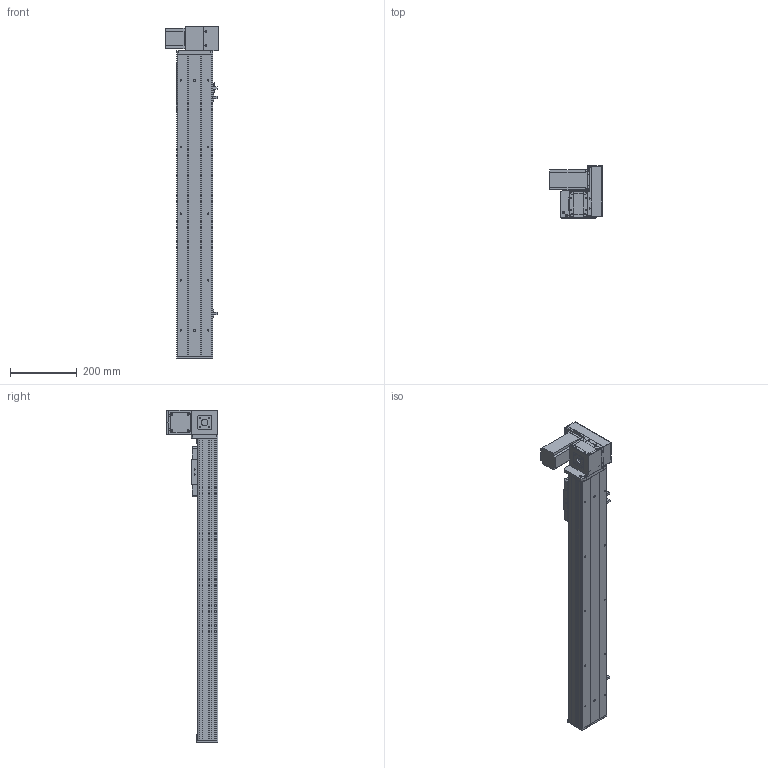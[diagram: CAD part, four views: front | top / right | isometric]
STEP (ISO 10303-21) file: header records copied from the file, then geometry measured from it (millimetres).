
FILE_DESCRIPTION (( 'STEP AP203' ), '1' );
FILE_NAME ('Y10CB-D90-S650-UR-P400W.STEP', '2020-02-16T03:24:48', ( '微软用户' ), ( '微软中国' ), 'SwSTEP 2.0', 'SolidWorks 2017', '' );
FILE_SCHEMA (( 'CONFIG_CONTROL_DESIGN' ));
Length unit declared in the file: millimetre
Products named in the file (18): san松下电机400不带刹车----; Y100-135俋离換覜ん--; 0B-源倛裔啣; Y10B--々湍喘謫眊--666; 0B-埴倛裔啣; Y10B-耜蚾蟀諉啣----; 10CB-詩湍-; 00B-俋欶BM--; Y10CB- 掛极耜裔啣-毀---; 0CB-雄赽釱---; Y10CB-D90-S650-UR-P400W; Y10C---詩湍揤啣; 0Cb-俋欶---; 10CB9-掛极; Y10B-々湍喘謫眊楊擘啣--; 10CB-耜裔; 0B-萇儂楊擘啣; Y135C-陔俋离換覜結え-
Assembly tree (21 placements, depth 2):
  Y10CB-D90-S650-UR-P400W
    0CB-雄赽釱---
    0Cb-俋欶---
    Y10B-々湍喘謫眊楊擘啣--
    0B-萇儂楊擘啣
    san松下电机400不带刹车----
    0B-源倛裔啣
    0B-埴倛裔啣
    10CB-詩湍-
    Y10CB- 掛极耜裔啣-毀---  x2
    Y10C---詩湍揤啣  x2
    10CB9-掛极
    10CB-耜裔
    Y135C-陔俋离換覜結え-
    Y100-135俋离換覜ん--  x3
    Y10B--々湍喘謫眊--666
    Y10B-耜蚾蟀諉啣----
    00B-俋欶BM--
Bounding box: 157 x 155.5 x 996 mm (x, y, z)
Volume: 2525227.5 mm3; surface area: 1103374.9 mm2
Topology: 21 solids, 21 shells, 966 faces, 2563 edges, 1682 vertices
Faces by surface type: plane 473, cylinder 469, cone 24
Entity records: 29912 total; most frequent: CARTESIAN_POINT 5173, DIRECTION 4862, ORIENTED_EDGE 4596, EDGE_CURVE 2298, AXIS2_PLACEMENT_3D 1741, VERTEX_POINT 1508, VECTOR 1380, LINE 1380
